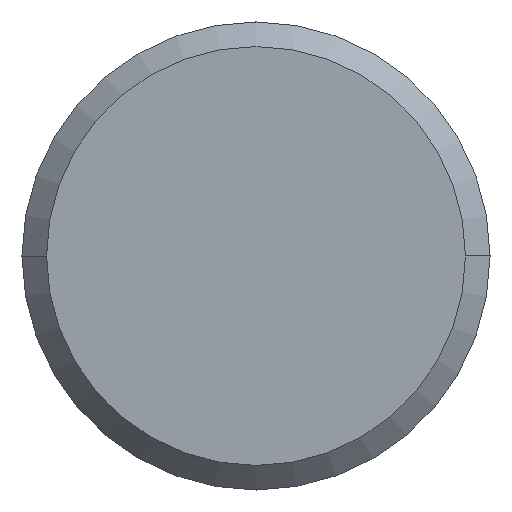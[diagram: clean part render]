
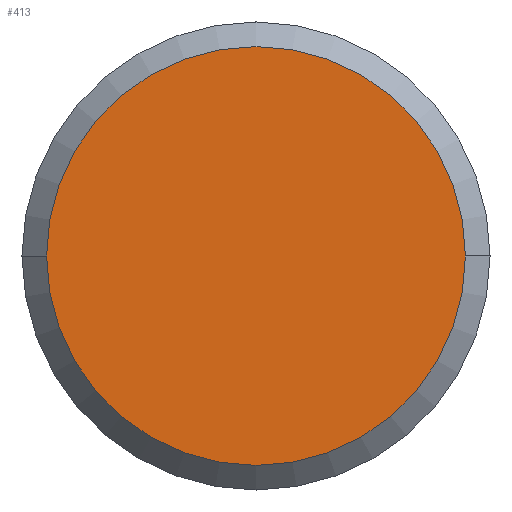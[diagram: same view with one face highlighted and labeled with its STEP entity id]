
A CAD part, left-side view. The second image highlights one B-rep face of the part: STEP entity #413.
In plain terms, the highlighted planar face has unit normal (-1, 0, 0).
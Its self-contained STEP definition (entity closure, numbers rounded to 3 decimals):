
#26 = AXIS2_PLACEMENT_3D ( 'NONE', #424, #249, #36 ) ;
#28 = AXIS2_PLACEMENT_3D ( 'NONE', #44, #162, #362 ) ;
#36 = DIRECTION ( 'NONE',  ( 0., 1., 0. ) ) ;
#44 = CARTESIAN_POINT ( 'NONE',  ( -43.45, 0., 0. ) ) ;
#76 = EDGE_CURVE ( 'NONE', #325, #182, #380, .T. ) ;
#81 = EDGE_CURVE ( 'NONE', #182, #325, #113, .T. ) ;
#85 = ORIENTED_EDGE ( 'NONE', *, *, #81, .F. ) ;
#95 = ORIENTED_EDGE ( 'NONE', *, *, #76, .F. ) ;
#113 = CIRCLE ( 'NONE', #26, 4.262 ) ;
#150 = AXIS2_PLACEMENT_3D ( 'NONE', #349, #176, #379 ) ;
#162 = DIRECTION ( 'NONE',  ( 1., 0., 0. ) ) ;
#176 = DIRECTION ( 'NONE',  ( -1., 0., 0. ) ) ;
#182 = VERTEX_POINT ( 'NONE', #206 ) ;
#205 = FACE_OUTER_BOUND ( 'NONE', #211, .T. ) ;
#206 = CARTESIAN_POINT ( 'NONE',  ( -43.45, -4.263, 0. ) ) ;
#211 = EDGE_LOOP ( 'NONE', ( #95, #85 ) ) ;
#249 = DIRECTION ( 'NONE',  ( 1., 0., 0. ) ) ;
#296 = CARTESIAN_POINT ( 'NONE',  ( -43.45, 4.262, 0. ) ) ;
#325 = VERTEX_POINT ( 'NONE', #296 ) ;
#349 = CARTESIAN_POINT ( 'NONE',  ( -43.45, 0., 0. ) ) ;
#362 = DIRECTION ( 'NONE',  ( 0., 1., 0. ) ) ;
#379 = DIRECTION ( 'NONE',  ( 0., -1., 0. ) ) ;
#380 = CIRCLE ( 'NONE', #28, 4.262 ) ;
#413 = ADVANCED_FACE ( 'NONE', ( #205 ), #432, .T. ) ;
#424 = CARTESIAN_POINT ( 'NONE',  ( -43.45, 0., 0. ) ) ;
#432 = PLANE ( 'NONE',  #150 ) ;
